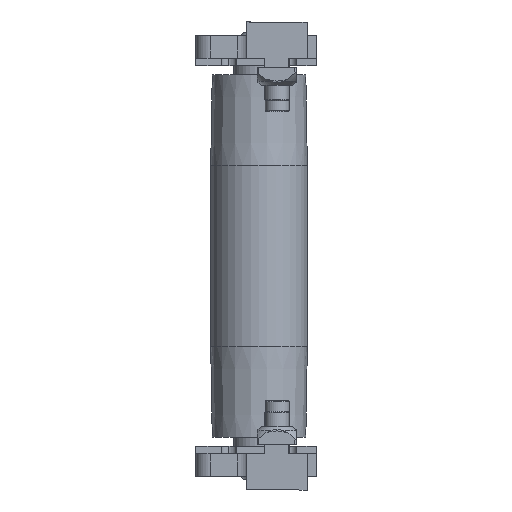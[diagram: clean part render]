
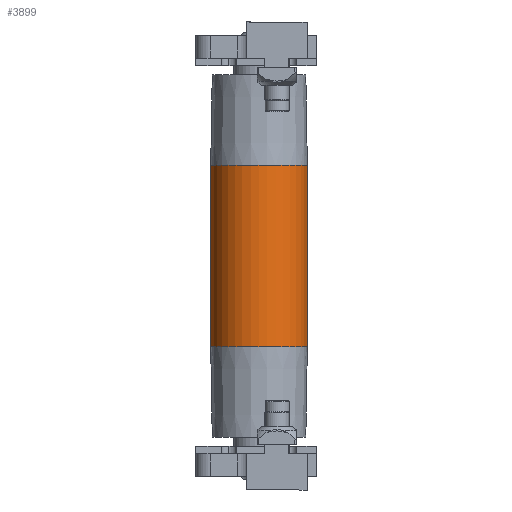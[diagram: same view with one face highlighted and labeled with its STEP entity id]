
A CAD part, left-side view. The second image highlights one B-rep face of the part: STEP entity #3899.
In plain terms, the highlighted cylindrical face has radius 16 mm (diameter 32 mm), a partial arc.
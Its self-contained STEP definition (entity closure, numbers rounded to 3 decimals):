
#6 = FACE_OUTER_BOUND ( 'NONE', #9195, .T. ) ;
#42 = ORIENTED_EDGE ( 'NONE', *, *, #3250, .F. ) ;
#420 = CARTESIAN_POINT ( 'NONE',  ( -30., -16., 0. ) ) ;
#529 = EDGE_CURVE ( 'NONE', #8754, #2136, #9363, .T. ) ;
#941 = CIRCLE ( 'NONE', #6167, 16. ) ;
#1061 = LINE ( 'NONE', #8532, #4682 ) ;
#1271 = CARTESIAN_POINT ( 'NONE',  ( 30., 16., 0. ) ) ;
#1467 = VERTEX_POINT ( 'NONE', #4102 ) ;
#1491 = CARTESIAN_POINT ( 'NONE',  ( 30., 0., 0. ) ) ;
#1522 = CARTESIAN_POINT ( 'NONE',  ( -30., 0., 0. ) ) ;
#1618 = DIRECTION ( 'NONE',  ( 1., 0., 0. ) ) ;
#1732 = AXIS2_PLACEMENT_3D ( 'NONE', #1995, #8719, #3723 ) ;
#1995 = CARTESIAN_POINT ( 'NONE',  ( -74., 0., 0. ) ) ;
#2136 = VERTEX_POINT ( 'NONE', #1271 ) ;
#2274 = DIRECTION ( 'NONE',  ( 0., 1., 0. ) ) ;
#2407 = AXIS2_PLACEMENT_3D ( 'NONE', #1491, #3806, #4557 ) ;
#2630 = DIRECTION ( 'NONE',  ( 1., 0., 0. ) ) ;
#2672 = CYLINDRICAL_SURFACE ( 'NONE', #1732, 16. ) ;
#2780 = EDGE_CURVE ( 'NONE', #8290, #1467, #941, .T. ) ;
#3250 = EDGE_CURVE ( 'NONE', #8290, #8754, #6069, .T. ) ;
#3265 = ORIENTED_EDGE ( 'NONE', *, *, #529, .F. ) ;
#3723 = DIRECTION ( 'NONE',  ( 0., 1., 0. ) ) ;
#3734 = DIRECTION ( 'NONE',  ( 1., 0., 0. ) ) ;
#3806 = DIRECTION ( 'NONE',  ( 1., 0., 0. ) ) ;
#3899 = ADVANCED_FACE ( 'NONE', ( #6 ), #2672, .T. ) ;
#3977 = ORIENTED_EDGE ( 'NONE', *, *, #2780, .T. ) ;
#4102 = CARTESIAN_POINT ( 'NONE',  ( -30., 16., 0. ) ) ;
#4502 = CARTESIAN_POINT ( 'NONE',  ( 30., -16., 0. ) ) ;
#4557 = DIRECTION ( 'NONE',  ( 0., 1., 0. ) ) ;
#4682 = VECTOR ( 'NONE', #2630, 1000. ) ;
#5687 = EDGE_CURVE ( 'NONE', #1467, #2136, #1061, .T. ) ;
#6069 = LINE ( 'NONE', #8195, #8521 ) ;
#6167 = AXIS2_PLACEMENT_3D ( 'NONE', #1522, #1618, #2274 ) ;
#8149 = ORIENTED_EDGE ( 'NONE', *, *, #5687, .T. ) ;
#8195 = CARTESIAN_POINT ( 'NONE',  ( -74., -16., 0. ) ) ;
#8290 = VERTEX_POINT ( 'NONE', #420 ) ;
#8521 = VECTOR ( 'NONE', #3734, 1000. ) ;
#8532 = CARTESIAN_POINT ( 'NONE',  ( -74., 16., 0. ) ) ;
#8719 = DIRECTION ( 'NONE',  ( 1., 0., 0. ) ) ;
#8754 = VERTEX_POINT ( 'NONE', #4502 ) ;
#9195 = EDGE_LOOP ( 'NONE', ( #42, #3977, #8149, #3265 ) ) ;
#9363 = CIRCLE ( 'NONE', #2407, 16. ) ;
